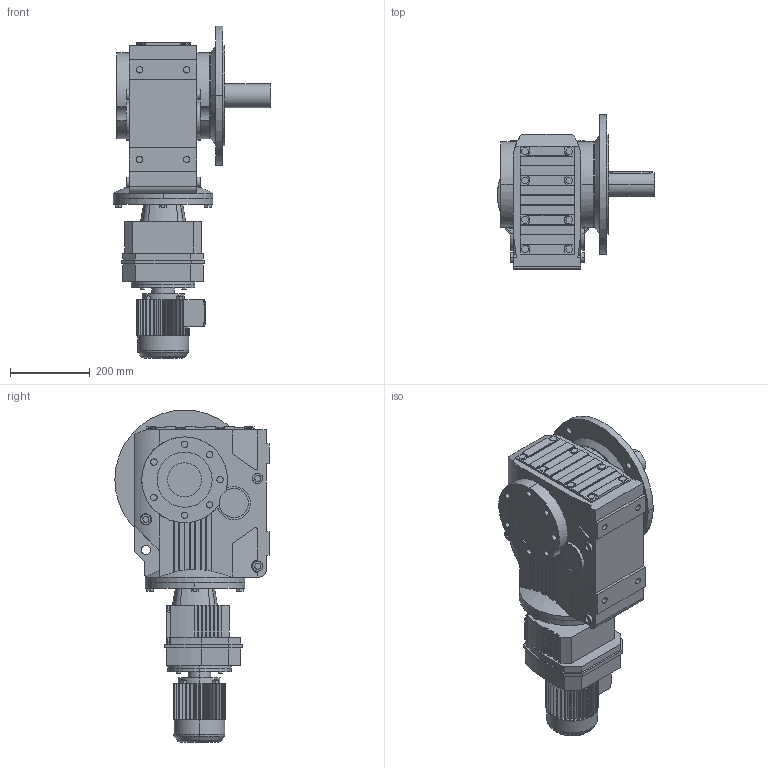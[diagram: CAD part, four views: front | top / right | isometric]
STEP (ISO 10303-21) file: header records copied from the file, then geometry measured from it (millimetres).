
FILE_DESCRIPTION(('Open CASCADE Model'),'2;1');
FILE_NAME('Open CASCADE Shape Model','2021-07-24T17:06:06',('Author'),( 'Open CASCADE'),'Open CASCADE STEP processor 6.3','Open CASCADE 6.3' ,'Unknown');
FILE_SCHEMA(('AUTOMOTIVE_DESIGN_CC2 { 1 2 10303 214 -1 1 5 4 }'));
Length unit declared in the file: millimetre
Products named in the file (6): 1_KF87R57DR63-A; KA37‵107_87.step; 萇儂_160-DR63-185-240-132-105.step; R_87_57.step; す瑩妗陑粣K_87.step; 楊擘K_87.step
Assembly tree (5 placements, depth 2):
  1_KF87R57DR63-A
    KA37‵107_87.step
    萇儂_160-DR63-185-240-132-105.step
    R_87_57.step
    す瑩妗陑粣K_87.step
    楊擘K_87.step
Bounding box: 395 x 387 x 833 mm (x, y, z)
Volume: 33133082.6 mm3; surface area: 1477480.8 mm2
Topology: 5 solids, 5 shells, 1115 faces, 2926 edges, 1912 vertices
Faces by surface type: plane 744, cylinder 345, cone 22, torus 4
Entity records: 82130 total; most frequent: CARTESIAN_POINT 26737, DIRECTION 9403, ORIENTED_EDGE 5848, PCURVE 5848, DEFINITIONAL_REPRESENTATION 5848, LINE 5159, VECTOR 5159, EDGE_CURVE 2924
